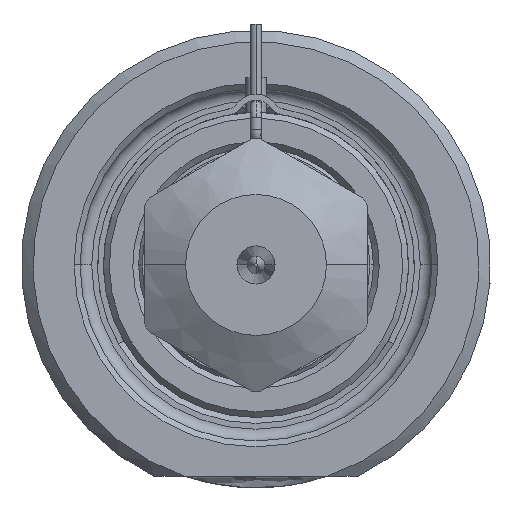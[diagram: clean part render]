
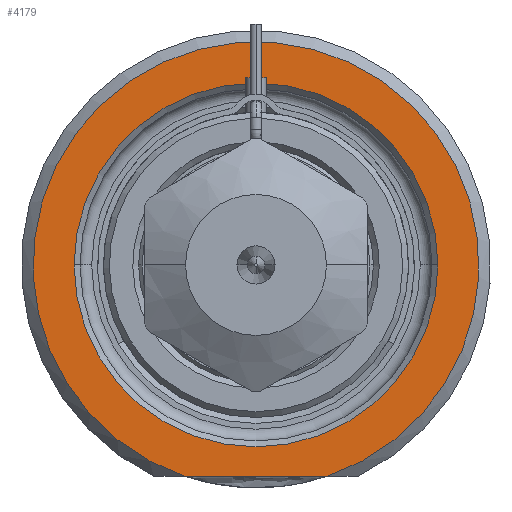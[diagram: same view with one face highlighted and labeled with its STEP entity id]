
A CAD part, front view. The second image highlights one B-rep face of the part: STEP entity #4179.
In plain terms, the highlighted planar face has unit normal (0, -1, 0).
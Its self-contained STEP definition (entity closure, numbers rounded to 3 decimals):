
#1=DIRECTION('',(1.,0.,0.));
#2=VECTOR('',#1,12.166);
#3=CARTESIAN_POINT('',(-6.083,0.,-18.));
#4=LINE('',#3,#2);
#5=CARTESIAN_POINT('',(0.,0.,0.));
#6=DIRECTION('',(0.,1.,0.));
#7=DIRECTION('',(-1.,0.,0.));
#8=AXIS2_PLACEMENT_3D('',#5,#6,#7);
#10=CARTESIAN_POINT('',(0.,0.,0.));
#11=DIRECTION('',(0.,1.,0.));
#12=DIRECTION('',(1.,0.,0.));
#13=AXIS2_PLACEMENT_3D('',#10,#11,#12);
#264=CARTESIAN_POINT('',(0.,0.,0.));
#265=DIRECTION('',(0.,-1.,0.));
#266=DIRECTION('',(0.32,0.,-0.947));
#267=AXIS2_PLACEMENT_3D('',#264,#265,#266);
#3530=CARTESIAN_POINT('',(-15.5,0.,0.));
#3531=CARTESIAN_POINT('',(15.5,0.,0.));
#3532=VERTEX_POINT('',#3530);
#3533=VERTEX_POINT('',#3531);
#3588=CARTESIAN_POINT('',(-6.083,0.,-18.));
#3589=CARTESIAN_POINT('',(6.083,0.,-18.));
#3590=VERTEX_POINT('',#3588);
#3591=VERTEX_POINT('',#3589);
#4162=CARTESIAN_POINT('',(0.,0.,0.));
#4163=DIRECTION('',(0.,-1.,0.));
#4164=DIRECTION('',(1.,0.,0.));
#4165=AXIS2_PLACEMENT_3D('',#4162,#4163,#4164);
#4166=PLANE('',#4165);
#4168=ORIENTED_EDGE('',*,*,#4167,.F.);
#4170=ORIENTED_EDGE('',*,*,#4169,.F.);
#4171=EDGE_LOOP('',(#4168,#4170));
#4172=FACE_OUTER_BOUND('',#4171,.F.);
#4174=ORIENTED_EDGE('',*,*,#4173,.F.);
#4176=ORIENTED_EDGE('',*,*,#4175,.F.);
#4177=EDGE_LOOP('',(#4174,#4176));
#4178=FACE_BOUND('',#4177,.F.);
#4179=ADVANCED_FACE('',(#4172,#4178),#4166,.T.);
#9=CIRCLE('',#8,15.5);
#14=CIRCLE('',#13,15.5);
#268=CIRCLE('',#267,19.);
#4167=EDGE_CURVE('',#3590,#3591,#4,.T.);
#4169=EDGE_CURVE('',#3591,#3590,#268,.T.);
#4173=EDGE_CURVE('',#3532,#3533,#9,.T.);
#4175=EDGE_CURVE('',#3533,#3532,#14,.T.);
